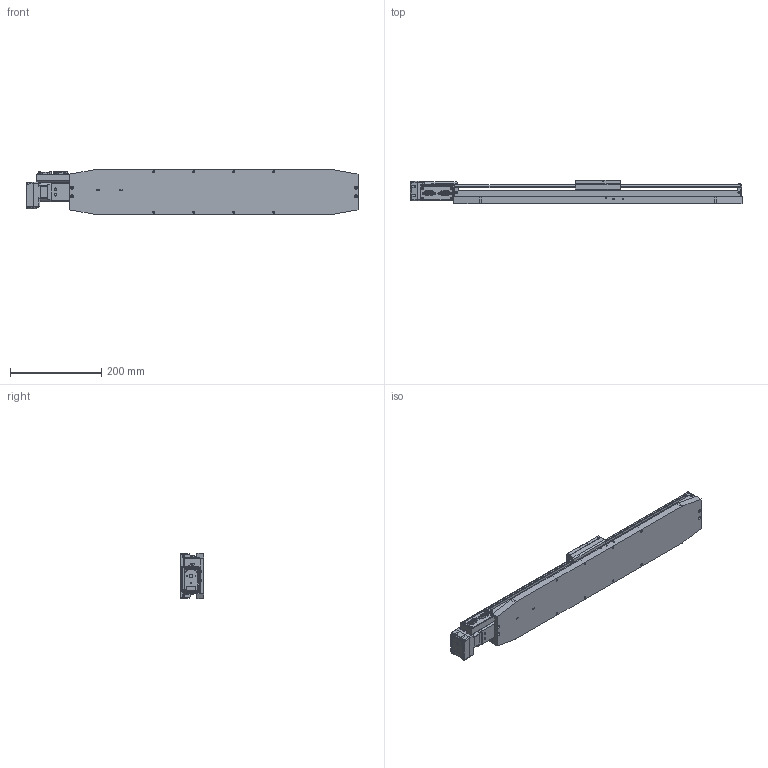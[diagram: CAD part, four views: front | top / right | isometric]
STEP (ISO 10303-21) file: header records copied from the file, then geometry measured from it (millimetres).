
FILE_DESCRIPTION (( 'STEP AP214' ), '1' );
FILE_NAME ('L3500.500-STA_v2_20180822.STEP', '2018-08-22T11:29:02', ( '' ), ( '' ), 'SwSTEP 2.0', 'SolidWorks 2017', '' );
FILE_SCHEMA (( 'AUTOMOTIVE_DESIGN' ));
Length unit declared in the file: millimetre
Products named in the file (1): L3500.500-STA_v2_20180822
Bounding box: 727.53 x 51.67 x 99.06 mm (x, y, z)
Surface area: 491152.4 mm2 (no closed solid volume)
Topology: 0 solids, 37 shells, 3219 faces, 8494 edges, 5462 vertices
Faces by surface type: plane 1354, cylinder 1248, bspline 292, cone 259, torus 66
Entity records: 133186 total; most frequent: CARTESIAN_POINT 55088, ORIENTED_EDGE 16563, DIRECTION 15265, EDGE_CURVE 8293, VERTEX_POINT 5462, AXIS2_PLACEMENT_3D 5415, LINE 4435, VECTOR 4435
